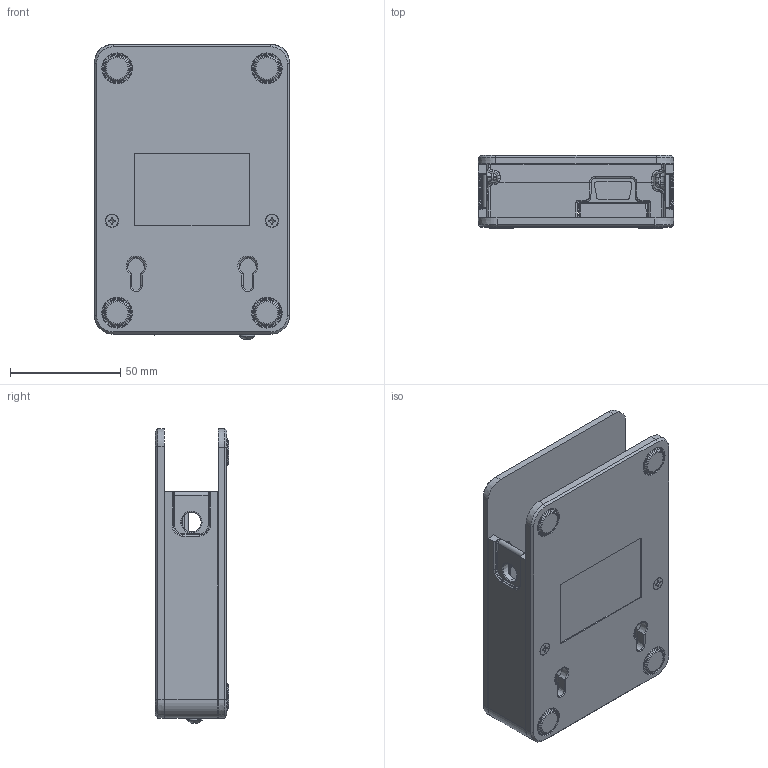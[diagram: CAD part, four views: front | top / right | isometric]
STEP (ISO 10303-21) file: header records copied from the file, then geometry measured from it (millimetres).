
FILE_DESCRIPTION((''),'2;1');
FILE_NAME('CU_CDAQ-9171_ASM','2011-06-06T',('dkendric'),(''),'PRO/ENGINEER BY PARAMETRIC TECHNOLOGY CORPORATION, 2010230','PRO/ENGINEER BY PARAMETRIC TECHNOLOGY CORPORATION, 2010230','');
FILE_SCHEMA(('CONFIG_CONTROL_DESIGN'));
Products named in the file (13): MANIFOLD_SOLID_BREP_47958; MANIFOLD_SOLID_BREP_64603; MANIFOLD_SOLID_BREP_66213; MANIFOLD_SOLID_BREP_66415; MANIFOLD_SOLID_BREP_66617; MANIFOLD_SOLID_BREP_69809; MANIFOLD_SOLID_BREP_69992; MANIFOLD_SOLID_BREP_70175; MANIFOLD_SOLID_BREP_70358; MANIFOLD_SOLID_BREP_70541; MANIFOLD_SOLID_BREP_72035; ASM0001_ASM; CU_CDAQ-9171_ASM
Assembly tree (12 placements, depth 3):
  CU_CDAQ-9171_ASM
    ASM0001_ASM
      MANIFOLD_SOLID_BREP_47958
      MANIFOLD_SOLID_BREP_64603
      MANIFOLD_SOLID_BREP_66213
      MANIFOLD_SOLID_BREP_66415
      MANIFOLD_SOLID_BREP_66617
      MANIFOLD_SOLID_BREP_69809
      MANIFOLD_SOLID_BREP_69992
      MANIFOLD_SOLID_BREP_70175
      MANIFOLD_SOLID_BREP_70358
      MANIFOLD_SOLID_BREP_70541
      MANIFOLD_SOLID_BREP_72035
Bounding box: 88.71 x 33.31 x 133.85 mm (x, y, z)
Volume: 126185.2 mm3; surface area: 79926.1 mm2
Topology: 11 solids, 11 shells, 2050 faces, 5221 edges, 3250 vertices
Faces by surface type: plane 1113, cylinder 502, torus 140, cone 117, bspline 85, extrusion 70, sphere 23
Entity records: 75667 total; most frequent: CARTESIAN_POINT 26857, ORIENTED_EDGE 10390, DIRECTION 9384, EDGE_CURVE 5195, VECTOR 3584, LINE 3514, VERTEX_POINT 3307, AXIS2_PLACEMENT_3D 2900
